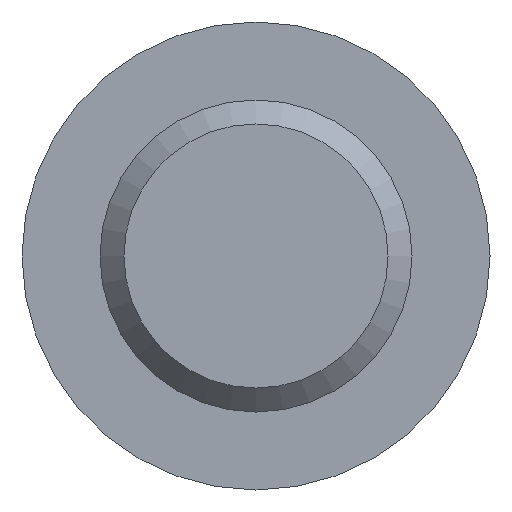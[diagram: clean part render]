
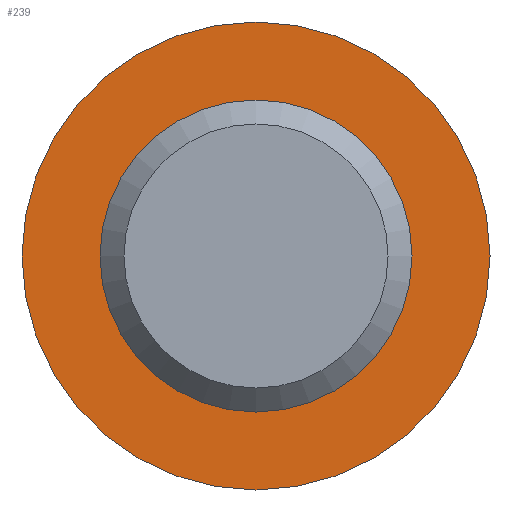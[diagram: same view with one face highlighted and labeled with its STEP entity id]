
A CAD part, front view. The second image highlights one B-rep face of the part: STEP entity #239.
In plain terms, the highlighted planar face has unit normal (0, -1, 0).
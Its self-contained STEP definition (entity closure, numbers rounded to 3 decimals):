
#23=FACE_BOUND('',#64,.T.);
#33=PLANE('',#282);
#48=FACE_OUTER_BOUND('',#63,.T.);
#63=EDGE_LOOP('',(#214));
#64=EDGE_LOOP('',(#215));
#100=CIRCLE('',#265,12.);
#106=CIRCLE('',#275,18.);
#109=VERTEX_POINT('',#356);
#120=VERTEX_POINT('',#384);
#133=EDGE_CURVE('',#109,#109,#100,.T.);
#146=EDGE_CURVE('',#120,#120,#106,.T.);
#214=ORIENTED_EDGE('',*,*,#146,.T.);
#215=ORIENTED_EDGE('',*,*,#133,.T.);
#239=ADVANCED_FACE('',(#48,#23),#33,.F.);
#265=AXIS2_PLACEMENT_3D('',#358,#296,#297);
#275=AXIS2_PLACEMENT_3D('',#386,#323,#324);
#282=AXIS2_PLACEMENT_3D('',#427,#343,#344);
#296=DIRECTION('center_axis',(0.,1.,0.));
#297=DIRECTION('ref_axis',(-1.,0.,0.));
#323=DIRECTION('center_axis',(0.,-1.,0.));
#324=DIRECTION('ref_axis',(1.,0.,0.));
#343=DIRECTION('center_axis',(0.,1.,0.));
#344=DIRECTION('ref_axis',(0.,0.,1.));
#356=CARTESIAN_POINT('',(12.,0.,0.));
#358=CARTESIAN_POINT('Origin',(0.,0.,0.));
#384=CARTESIAN_POINT('',(-18.,0.,0.));
#386=CARTESIAN_POINT('Origin',(0.,0.,0.));
#427=CARTESIAN_POINT('Origin',(0.,0.,0.));
